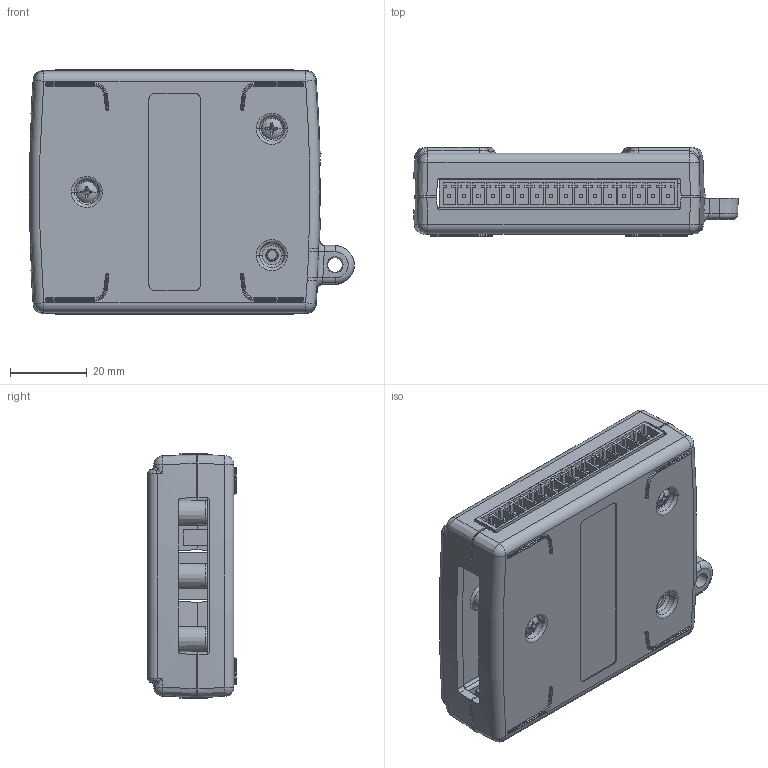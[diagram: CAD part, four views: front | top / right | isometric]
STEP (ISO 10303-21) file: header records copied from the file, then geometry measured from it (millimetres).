
FILE_DESCRIPTION((''),'2;1');
FILE_NAME('CU_USB_100BOX','2007-08-23T',('jpearson'),(''),'PRO/ENGINEER BY PARAMETRIC TECHNOLOGY CORPORATION, 2006080','PRO/ENGINEER BY PARAMETRIC TECHNOLOGY CORPORATION, 2006080','');
FILE_SCHEMA(('CONFIG_CONTROL_DESIGN'));
Products named in the file (1): CU_USB_100BOX
Bounding box: 84.93 x 23.19 x 64.01 mm (x, y, z)
Volume: 41825.1 mm3; surface area: 44792.8 mm2
Topology: 1 solids, 1 shells, 2354 faces, 5463 edges, 3303 vertices
Faces by surface type: plane 1056, torus 630, cone 318, bspline 170, cylinder 142, sphere 38
Entity records: 73896 total; most frequent: CARTESIAN_POINT 20254, DIRECTION 11586, ORIENTED_EDGE 10840, EDGE_CURVE 5420, AXIS2_PLACEMENT_3D 4415, VERTEX_POINT 3341, VECTOR 2756, LINE 2756
